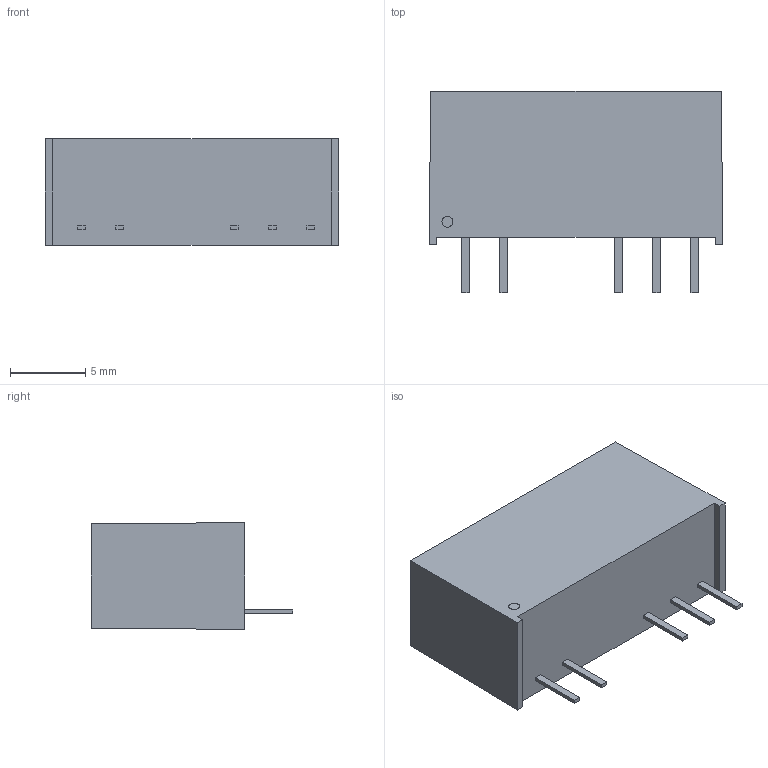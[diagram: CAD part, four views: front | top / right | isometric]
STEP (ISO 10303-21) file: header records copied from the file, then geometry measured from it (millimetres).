
FILE_DESCRIPTION (( 'STEP AP214' ), '1' );
FILE_NAME ('tmv2hi-dual.STEP', '2015-07-29T09:52:58', ( '' ), ( '' ), 'SwSTEP 2.0', 'SolidWorks 2013', '' );
FILE_SCHEMA (( 'AUTOMOTIVE_DESIGN' ));
Length unit declared in the file: millimetre
Products named in the file (1): tmv2hi-dual
Bounding box: 19.5 x 13.4 x 7.1 mm (x, y, z)
Volume: 1324.8 mm3; surface area: 827.4 mm2
Topology: 1 solids, 1 shells, 38 faces, 90 edges, 60 vertices
Faces by surface type: plane 36, cylinder 2
Entity records: 1112 total; most frequent: CARTESIAN_POINT 189, ORIENTED_EDGE 180, DIRECTION 172, EDGE_CURVE 90, LINE 86, VECTOR 86, VERTEX_POINT 60, EDGE_LOOP 44
